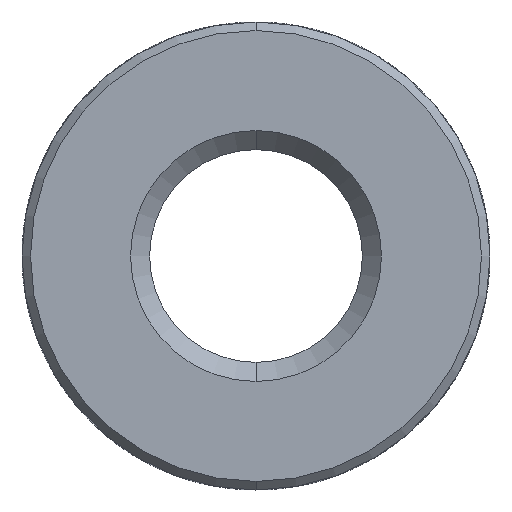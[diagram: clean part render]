
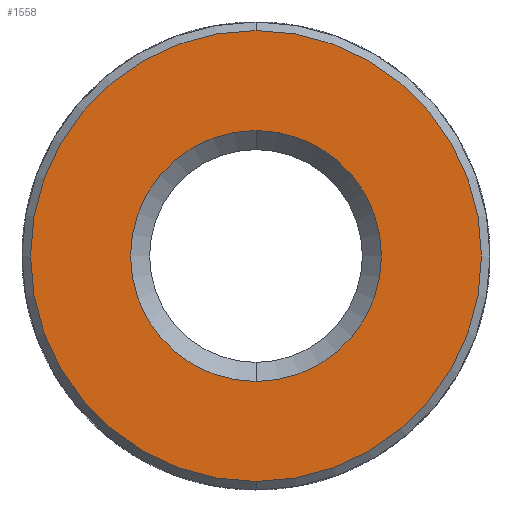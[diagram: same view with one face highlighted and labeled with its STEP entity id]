
A CAD part, front view. The second image highlights one B-rep face of the part: STEP entity #1558.
In plain terms, the highlighted planar face has unit normal (0, -1, 0).
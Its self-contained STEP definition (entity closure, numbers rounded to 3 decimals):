
#207 = FACE_BOUND ( 'NONE', #2833, .T. ) ;
#604 = DIRECTION ( 'NONE',  ( 0., 0., -1. ) ) ;
#650 = DIRECTION ( 'NONE',  ( 0., 0., -1. ) ) ;
#651 = ORIENTED_EDGE ( 'NONE', *, *, #917, .T. ) ;
#844 = PLANE ( 'NONE',  #2379 ) ;
#917 = EDGE_CURVE ( 'NONE', #3770, #2316, #1076, .T. ) ;
#982 = CIRCLE ( 'NONE', #2776, 1.475 ) ;
#1076 = CIRCLE ( 'NONE', #1377, 2.65 ) ;
#1115 = FACE_OUTER_BOUND ( 'NONE', #2554, .T. ) ;
#1132 = CARTESIAN_POINT ( 'NONE',  ( 0., -4.5, 2.75 ) ) ;
#1160 = DIRECTION ( 'NONE',  ( 0., -1., 0. ) ) ;
#1202 = DIRECTION ( 'NONE',  ( 0., 0., -1. ) ) ;
#1249 = CARTESIAN_POINT ( 'NONE',  ( 0., -4.5, 2.65 ) ) ;
#1356 = EDGE_CURVE ( 'NONE', #2316, #3770, #3857, .T. ) ;
#1377 = AXIS2_PLACEMENT_3D ( 'NONE', #2153, #2796, #650 ) ;
#1423 = DIRECTION ( 'NONE',  ( 0., 0., -1. ) ) ;
#1441 = VERTEX_POINT ( 'NONE', #3328 ) ;
#1494 = CARTESIAN_POINT ( 'NONE',  ( 0., -4.5, 0. ) ) ;
#1558 = ADVANCED_FACE ( 'NONE', ( #1115, #207 ), #844, .T. ) ;
#1596 = CARTESIAN_POINT ( 'NONE',  ( 0., -4.5, -1.475 ) ) ;
#1619 = ORIENTED_EDGE ( 'NONE', *, *, #3735, .T. ) ;
#1729 = AXIS2_PLACEMENT_3D ( 'NONE', #3980, #2110, #1202 ) ;
#1730 = CIRCLE ( 'NONE', #2293, 1.475 ) ;
#2108 = DIRECTION ( 'NONE',  ( 0., 1., 0. ) ) ;
#2110 = DIRECTION ( 'NONE',  ( 0., -1., 0. ) ) ;
#2153 = CARTESIAN_POINT ( 'NONE',  ( 0., -4.5, 0. ) ) ;
#2192 = ORIENTED_EDGE ( 'NONE', *, *, #1356, .T. ) ;
#2293 = AXIS2_PLACEMENT_3D ( 'NONE', #3037, #2108, #604 ) ;
#2316 = VERTEX_POINT ( 'NONE', #1249 ) ;
#2379 = AXIS2_PLACEMENT_3D ( 'NONE', #1132, #1160, #1423 ) ;
#2440 = EDGE_CURVE ( 'NONE', #1441, #3960, #982, .T. ) ;
#2554 = EDGE_LOOP ( 'NONE', ( #2192, #651 ) ) ;
#2776 = AXIS2_PLACEMENT_3D ( 'NONE', #1494, #3939, #3967 ) ;
#2796 = DIRECTION ( 'NONE',  ( 0., -1., 0. ) ) ;
#2833 = EDGE_LOOP ( 'NONE', ( #1619, #3461 ) ) ;
#3037 = CARTESIAN_POINT ( 'NONE',  ( 0., -4.5, 0. ) ) ;
#3328 = CARTESIAN_POINT ( 'NONE',  ( 0., -4.5, 1.475 ) ) ;
#3461 = ORIENTED_EDGE ( 'NONE', *, *, #2440, .T. ) ;
#3677 = CARTESIAN_POINT ( 'NONE',  ( 0., -4.5, -2.65 ) ) ;
#3735 = EDGE_CURVE ( 'NONE', #3960, #1441, #1730, .T. ) ;
#3770 = VERTEX_POINT ( 'NONE', #3677 ) ;
#3857 = CIRCLE ( 'NONE', #1729, 2.65 ) ;
#3939 = DIRECTION ( 'NONE',  ( 0., 1., 0. ) ) ;
#3960 = VERTEX_POINT ( 'NONE', #1596 ) ;
#3967 = DIRECTION ( 'NONE',  ( 0., 0., -1. ) ) ;
#3980 = CARTESIAN_POINT ( 'NONE',  ( 0., -4.5, 0. ) ) ;
